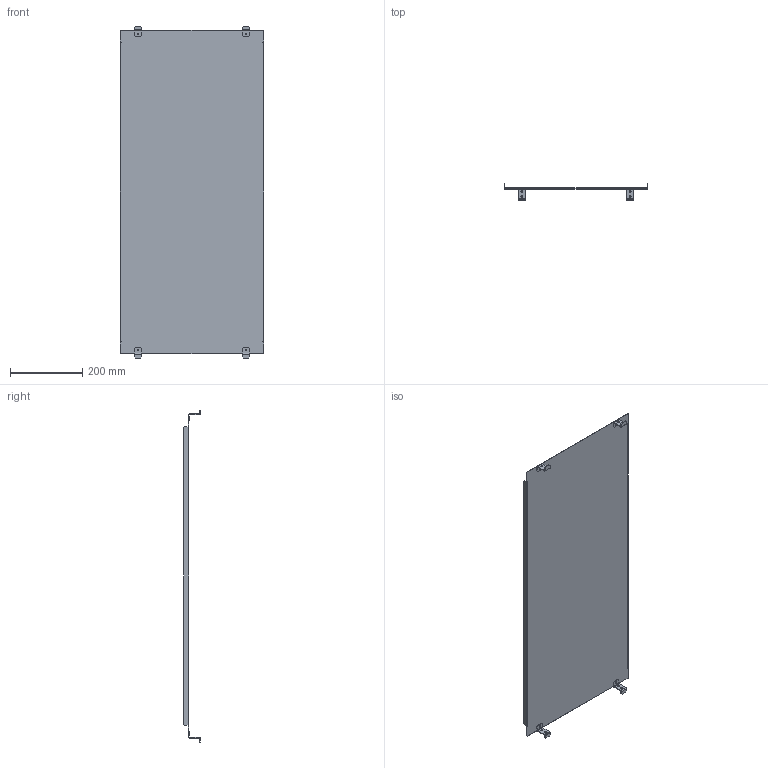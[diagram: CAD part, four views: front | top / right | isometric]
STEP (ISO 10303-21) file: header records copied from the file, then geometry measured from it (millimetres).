
FILE_DESCRIPTION(('CAx-IF Rec.Pracs.---Model Styling and Organization---1.2---2011-12-15','CAx-IF Rec.Pracs.---Geometric and Assembly Validation Properties---4.1---2014-06-16','CAx-IF Rec.Pracs.---PMI Polyline Presentation---2.0---2013-05-24'),'2;1');
FILE_NAME('R5SBPW104.stp','2021-05-06T03:04:57+03:00',(''),(''),'STEP Interface 4.4 by CT CoreTechnologie','3D_Evolution4.4 by CT CoreTechnologie','');
FILE_SCHEMA(('AUTOMOTIVE_DESIGN { 1 0 10303 214 1 1 1 1 }'));
Length unit declared in the file: millimetre
Products named in the file (3): R5SBPW104; RB.0521.00.00.0_-00; RB.0532.00.00.0_-02
Assembly tree (5 placements, depth 2):
  R5SBPW104
    RB.0521.00.00.0_-00  x4
    RB.0532.00.00.0_-02
Bounding box: 399 x 45 x 922 mm (x, y, z)
Surface area: 768957.8 mm2 (no closed solid volume)
Topology: 0 solids, 5 shells, 162 faces, 440 edges, 288 vertices
Faces by surface type: plane 106, cylinder 56
Entity records: 2906 total; most frequent: CARTESIAN_POINT 482, ORIENTED_EDGE 472, DIRECTION 468, EDGE_CURVE 236, VECTOR 184, LINE 184, VERTEX_POINT 156, AXIS2_PLACEMENT_3D 142
